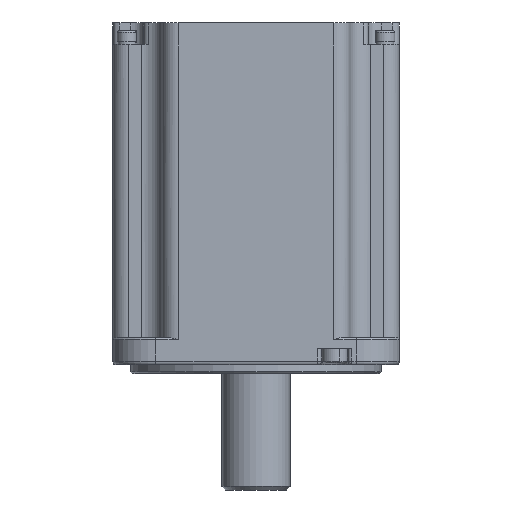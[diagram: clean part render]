
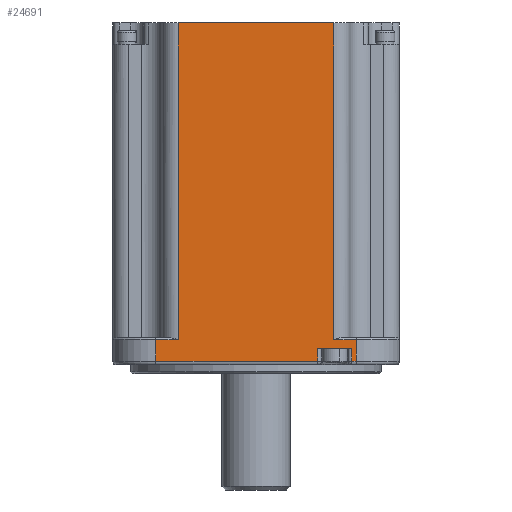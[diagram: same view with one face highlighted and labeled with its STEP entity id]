
A CAD part, front view. The second image highlights one B-rep face of the part: STEP entity #24691.
In plain terms, the highlighted planar face has unit normal (0, -1, 0).
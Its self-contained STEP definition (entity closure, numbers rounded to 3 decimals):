
#84 = ORIENTED_EDGE ( 'NONE', *, *, #3813, .T. ) ;
#121 = EDGE_LOOP ( 'NONE', ( #27347, #30103, #29854, #26834, #19367, #15933, #17142, #30408, #84, #22939, #24532, #27439 ) ) ;
#165 = CARTESIAN_POINT ( 'NONE',  ( 26.742, -40., 42.5 ) ) ;
#698 = LINE ( 'NONE', #6551, #21663 ) ;
#1013 = VECTOR ( 'NONE', #2602, 1000. ) ;
#1079 = CARTESIAN_POINT ( 'NONE',  ( 21.75, -40., 130.498 ) ) ;
#1429 = CARTESIAN_POINT ( 'NONE',  ( 17.242, -40., 42.5 ) ) ;
#1482 = DIRECTION ( 'NONE',  ( 0., 0., 1. ) ) ;
#2602 = DIRECTION ( 'NONE',  ( -1., 0., 0. ) ) ;
#3813 = EDGE_CURVE ( 'NONE', #29143, #8107, #698, .T. ) ;
#3917 = EDGE_CURVE ( 'NONE', #24591, #20376, #24708, .T. ) ;
#4002 = VERTEX_POINT ( 'NONE', #16511 ) ;
#6352 = CARTESIAN_POINT ( 'NONE',  ( -40., -40., 42. ) ) ;
#6551 = CARTESIAN_POINT ( 'NONE',  ( 28., -40., 42.5 ) ) ;
#6635 = DIRECTION ( 'NONE',  ( 0., 1., 0. ) ) ;
#6848 = AXIS2_PLACEMENT_3D ( 'NONE', #25723, #6635, #13672 ) ;
#7906 = CARTESIAN_POINT ( 'NONE',  ( -21.75, -40., 130.498 ) ) ;
#8107 = VERTEX_POINT ( 'NONE', #10461 ) ;
#8597 = CARTESIAN_POINT ( 'NONE',  ( -21.75, -40., 130.498 ) ) ;
#8614 = CARTESIAN_POINT ( 'NONE',  ( 21.75, -40., 130.498 ) ) ;
#9542 = VERTEX_POINT ( 'NONE', #11705 ) ;
#10461 = CARTESIAN_POINT ( 'NONE',  ( 28., -40., 42. ) ) ;
#11028 = EDGE_CURVE ( 'NONE', #8107, #4002, #22000, .T. ) ;
#11289 = DIRECTION ( 'NONE',  ( 0., 0., 1. ) ) ;
#11501 = CARTESIAN_POINT ( 'NONE',  ( 17.242, -40., 39.5 ) ) ;
#11705 = CARTESIAN_POINT ( 'NONE',  ( -28., -40., 36. ) ) ;
#13672 = DIRECTION ( 'NONE',  ( 0., 0., 1. ) ) ;
#14025 = CARTESIAN_POINT ( 'NONE',  ( -26.25, -40., 130.498 ) ) ;
#14619 = VERTEX_POINT ( 'NONE', #1079 ) ;
#14634 = DIRECTION ( 'NONE',  ( 0., 0., -1. ) ) ;
#14655 = VERTEX_POINT ( 'NONE', #7906 ) ;
#15211 = LINE ( 'NONE', #17274, #29851 ) ;
#15252 = EDGE_CURVE ( 'NONE', #14655, #14619, #27728, .T. ) ;
#15885 = DIRECTION ( 'NONE',  ( -1., 0., 0. ) ) ;
#15917 = EDGE_CURVE ( 'NONE', #19327, #29365, #22780, .T. ) ;
#15933 = ORIENTED_EDGE ( 'NONE', *, *, #16230, .F. ) ;
#15955 = CARTESIAN_POINT ( 'NONE',  ( -21.75, -40., 42. ) ) ;
#16011 = LINE ( 'NONE', #16686, #29162 ) ;
#16230 = EDGE_CURVE ( 'NONE', #19327, #20376, #18219, .T. ) ;
#16392 = CARTESIAN_POINT ( 'NONE',  ( -28., -40., 42. ) ) ;
#16511 = CARTESIAN_POINT ( 'NONE',  ( 21.75, -40., 42. ) ) ;
#16617 = DIRECTION ( 'NONE',  ( 1., 0., 0. ) ) ;
#16686 = CARTESIAN_POINT ( 'NONE',  ( 28., -40., 36. ) ) ;
#16963 = CARTESIAN_POINT ( 'NONE',  ( 18.242, -40., 39.5 ) ) ;
#17142 = ORIENTED_EDGE ( 'NONE', *, *, #15917, .T. ) ;
#17274 = CARTESIAN_POINT ( 'NONE',  ( -28., -40., 42.5 ) ) ;
#18219 = LINE ( 'NONE', #16963, #1013 ) ;
#18706 = CARTESIAN_POINT ( 'NONE',  ( 17.242, -40., 36. ) ) ;
#18762 = EDGE_CURVE ( 'NONE', #23772, #18812, #30679, .T. ) ;
#18812 = VERTEX_POINT ( 'NONE', #16392 ) ;
#18958 = DIRECTION ( 'NONE',  ( 1., 0., 0. ) ) ;
#18968 = CARTESIAN_POINT ( 'NONE',  ( 26.742, -40., 36. ) ) ;
#19115 = LINE ( 'NONE', #8614, #26657 ) ;
#19213 = EDGE_CURVE ( 'NONE', #29365, #29143, #16011, .T. ) ;
#19327 = VERTEX_POINT ( 'NONE', #23718 ) ;
#19367 = ORIENTED_EDGE ( 'NONE', *, *, #3917, .T. ) ;
#19744 = VECTOR ( 'NONE', #14634, 1000. ) ;
#19941 = EDGE_CURVE ( 'NONE', #18812, #9542, #15211, .T. ) ;
#20058 = DIRECTION ( 'NONE',  ( 0., 0., -1. ) ) ;
#20101 = VECTOR ( 'NONE', #15885, 1000. ) ;
#20376 = VERTEX_POINT ( 'NONE', #11501 ) ;
#20873 = DIRECTION ( 'NONE',  ( 0., 0., 1. ) ) ;
#20956 = PLANE ( 'NONE',  #6848 ) ;
#21663 = VECTOR ( 'NONE', #11289, 1000. ) ;
#22000 = LINE ( 'NONE', #25971, #26931 ) ;
#22033 = EDGE_CURVE ( 'NONE', #4002, #14619, #19115, .T. ) ;
#22727 = VECTOR ( 'NONE', #20058, 1000. ) ;
#22780 = LINE ( 'NONE', #165, #19744 ) ;
#22782 = CARTESIAN_POINT ( 'NONE',  ( 28., -40., 36. ) ) ;
#22908 = FACE_OUTER_BOUND ( 'NONE', #121, .T. ) ;
#22939 = ORIENTED_EDGE ( 'NONE', *, *, #11028, .T. ) ;
#23146 = EDGE_CURVE ( 'NONE', #9542, #24591, #27384, .T. ) ;
#23533 = DIRECTION ( 'NONE',  ( -1., 0., 0. ) ) ;
#23718 = CARTESIAN_POINT ( 'NONE',  ( 26.742, -40., 39.5 ) ) ;
#23765 = DIRECTION ( 'NONE',  ( 1., 0., 0. ) ) ;
#23772 = VERTEX_POINT ( 'NONE', #15955 ) ;
#24200 = DIRECTION ( 'NONE',  ( 0., 0., -1. ) ) ;
#24248 = EDGE_CURVE ( 'NONE', #14655, #23772, #30657, .T. ) ;
#24532 = ORIENTED_EDGE ( 'NONE', *, *, #22033, .T. ) ;
#24591 = VERTEX_POINT ( 'NONE', #26062 ) ;
#24691 = ADVANCED_FACE ( 'NONE', ( #22908 ), #20956, .F. ) ;
#24708 = LINE ( 'NONE', #1429, #30350 ) ;
#25723 = CARTESIAN_POINT ( 'NONE',  ( -26.25, -40., 130.498 ) ) ;
#25971 = CARTESIAN_POINT ( 'NONE',  ( -40., -40., 42. ) ) ;
#26062 = CARTESIAN_POINT ( 'NONE',  ( 17.242, -40., 36. ) ) ;
#26629 = VECTOR ( 'NONE', #23765, 1000. ) ;
#26657 = VECTOR ( 'NONE', #1482, 1000. ) ;
#26834 = ORIENTED_EDGE ( 'NONE', *, *, #23146, .T. ) ;
#26931 = VECTOR ( 'NONE', #23533, 1000. ) ;
#27347 = ORIENTED_EDGE ( 'NONE', *, *, #24248, .T. ) ;
#27384 = LINE ( 'NONE', #18706, #26629 ) ;
#27439 = ORIENTED_EDGE ( 'NONE', *, *, #15252, .F. ) ;
#27728 = LINE ( 'NONE', #14025, #30371 ) ;
#29143 = VERTEX_POINT ( 'NONE', #22782 ) ;
#29162 = VECTOR ( 'NONE', #18958, 1000. ) ;
#29365 = VERTEX_POINT ( 'NONE', #18968 ) ;
#29851 = VECTOR ( 'NONE', #24200, 1000. ) ;
#29854 = ORIENTED_EDGE ( 'NONE', *, *, #19941, .T. ) ;
#30103 = ORIENTED_EDGE ( 'NONE', *, *, #18762, .T. ) ;
#30350 = VECTOR ( 'NONE', #20873, 1000. ) ;
#30371 = VECTOR ( 'NONE', #16617, 1000. ) ;
#30408 = ORIENTED_EDGE ( 'NONE', *, *, #19213, .T. ) ;
#30657 = LINE ( 'NONE', #8597, #22727 ) ;
#30679 = LINE ( 'NONE', #6352, #20101 ) ;
